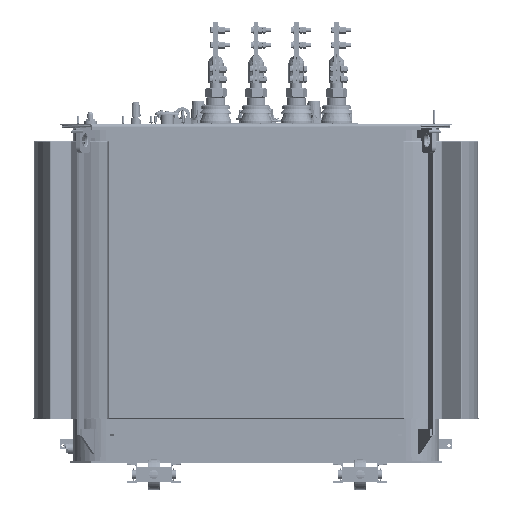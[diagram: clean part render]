
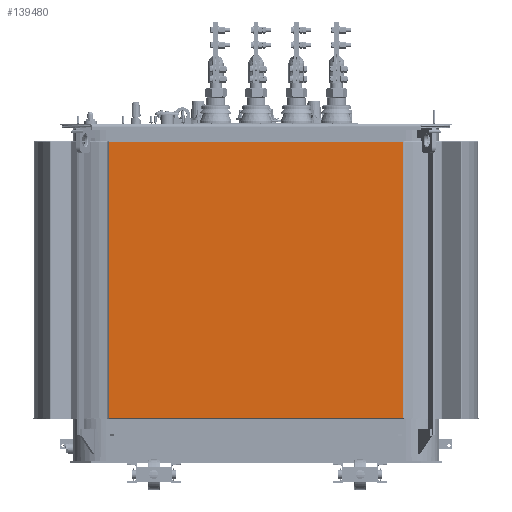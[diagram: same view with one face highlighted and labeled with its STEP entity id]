
A CAD part, top view. The second image highlights one B-rep face of the part: STEP entity #139480.
In plain terms, the highlighted planar face has unit normal (0, 0, 1).
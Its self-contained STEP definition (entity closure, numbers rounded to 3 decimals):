
#16405=FACE_OUTER_BOUND('',#26536,.T.);
#26536=EDGE_LOOP('',(#119844,#119845,#119846,#119847));
#36403=LINE('',#264578,#46329);
#36460=LINE('',#264785,#46386);
#36461=LINE('',#264787,#46387);
#36462=LINE('',#264788,#46388);
#46329=VECTOR('',#188279,1100.);
#46386=VECTOR('',#188498,1100.);
#46387=VECTOR('',#188501,1166.);
#46388=VECTOR('',#188502,1166.);
#64689=VERTEX_POINT('',#264575);
#64690=VERTEX_POINT('',#264577);
#64758=VERTEX_POINT('',#264781);
#64759=VERTEX_POINT('',#264783);
#82997=EDGE_CURVE('',#64689,#64690,#36403,.T.);
#83101=EDGE_CURVE('',#64758,#64759,#36460,.T.);
#83102=EDGE_CURVE('',#64689,#64758,#36461,.T.);
#83103=EDGE_CURVE('',#64690,#64759,#36462,.T.);
#119844=ORIENTED_EDGE('',*,*,#83102,.T.);
#119845=ORIENTED_EDGE('',*,*,#83101,.T.);
#119846=ORIENTED_EDGE('',*,*,#83103,.F.);
#119847=ORIENTED_EDGE('',*,*,#82997,.F.);
#124010=PLANE('',#152588);
#139480=ADVANCED_FACE('',(#16405),#124010,.T.);
#152588=AXIS2_PLACEMENT_3D('',#264786,#188499,#188500);
#188279=DIRECTION('',(0.,-1.,0.));
#188498=DIRECTION('',(0.,-1.,0.));
#188499=DIRECTION('center_axis',(0.,0.,
1.));
#188500=DIRECTION('ref_axis',(-1.,0.,0.));
#188501=DIRECTION('',(-1.,0.,0.));
#188502=DIRECTION('',(-1.,0.,0.));
#264575=CARTESIAN_POINT('',(583.,1270.,543.5));
#264577=CARTESIAN_POINT('',(583.,170.,543.5));
#264578=CARTESIAN_POINT('',(583.,1270.,543.5));
#264781=CARTESIAN_POINT('',(-583.,1270.,543.5));
#264783=CARTESIAN_POINT('',(-583.,170.,543.5));
#264785=CARTESIAN_POINT('',(-583.,1270.,543.5));
#264786=CARTESIAN_POINT('Origin',(0.,1270.,543.5));
#264787=CARTESIAN_POINT('',(0.,1270.,543.5));
#264788=CARTESIAN_POINT('',(583.,170.,543.5));
